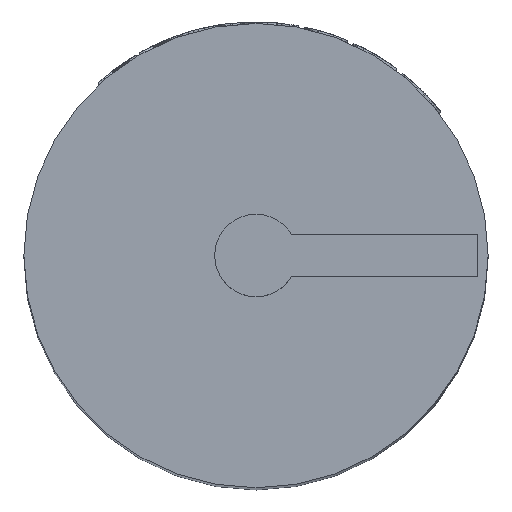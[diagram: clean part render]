
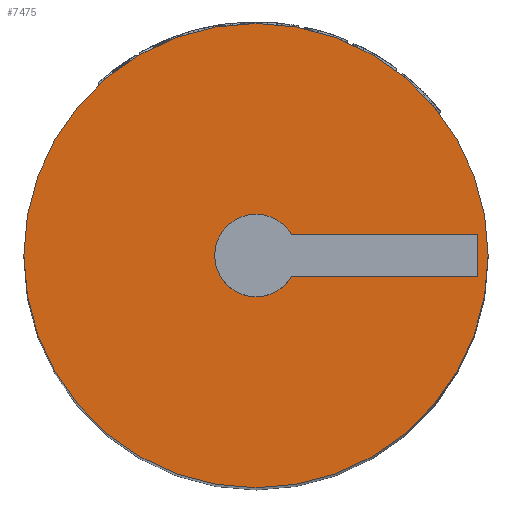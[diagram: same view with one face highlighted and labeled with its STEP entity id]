
A CAD part, top view. The second image highlights one B-rep face of the part: STEP entity #7475.
In plain terms, the highlighted planar face has unit normal (0, 0, 1).
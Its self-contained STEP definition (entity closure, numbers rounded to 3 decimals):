
#1835=CARTESIAN_POINT('',(0.,0.,60.5));
#1836=DIRECTION('',(0.,0.,1.));
#1837=DIRECTION('',(1.,0.,0.));
#1838=AXIS2_PLACEMENT_3D('',#1835,#1836,#1837);
#1840=CARTESIAN_POINT('',(0.,0.,60.5));
#1841=DIRECTION('',(0.,0.,1.));
#1842=DIRECTION('',(-1.,0.,0.));
#1843=AXIS2_PLACEMENT_3D('',#1840,#1841,#1842);
#1845=DIRECTION('',(1.,0.,0.));
#1846=VECTOR('',#1845,15.745);
#1847=CARTESIAN_POINT('',(4.,-2.,60.5));
#1848=LINE('',#1847,#1846);
#1849=DIRECTION('',(0.,1.,0.));
#1850=VECTOR('',#1849,4.);
#1851=CARTESIAN_POINT('',(19.745,-2.,60.5));
#1852=LINE('',#1851,#1850);
#1853=DIRECTION('',(1.,0.,0.));
#1854=VECTOR('',#1853,15.745);
#1855=CARTESIAN_POINT('',(4.,2.,60.5));
#1856=LINE('',#1855,#1854);
#1857=DIRECTION('',(0.,1.,0.));
#1858=VECTOR('',#1857,2.);
#1859=CARTESIAN_POINT('',(4.,0.,60.5));
#1860=LINE('',#1859,#1858);
#1861=CARTESIAN_POINT('',(0.,0.,60.5));
#1862=DIRECTION('',(0.,0.,1.));
#1863=DIRECTION('',(1.,0.,0.));
#1864=AXIS2_PLACEMENT_3D('',#1861,#1862,#1863);
#1866=CARTESIAN_POINT('',(0.,0.,60.5));
#1867=DIRECTION('',(0.,0.,1.));
#1868=DIRECTION('',(-1.,0.,0.));
#1869=AXIS2_PLACEMENT_3D('',#1866,#1867,#1868);
#1871=DIRECTION('',(0.,1.,0.));
#1872=VECTOR('',#1871,2.);
#1873=CARTESIAN_POINT('',(4.,-2.,60.5));
#1874=LINE('',#1873,#1872);
#5597=CARTESIAN_POINT('',(22.5,0.,60.5));
#5598=CARTESIAN_POINT('',(-22.5,0.,60.5));
#5599=VERTEX_POINT('',#5597);
#5600=VERTEX_POINT('',#5598);
#5601=CARTESIAN_POINT('',(-4.,0.,60.5));
#5603=VERTEX_POINT('',#5601);
#5617=CARTESIAN_POINT('',(4.,-2.,60.5));
#5618=CARTESIAN_POINT('',(19.745,-2.,60.5));
#5619=VERTEX_POINT('',#5617);
#5620=VERTEX_POINT('',#5618);
#5621=CARTESIAN_POINT('',(4.,2.,60.5));
#5622=CARTESIAN_POINT('',(19.745,2.,60.5));
#5623=VERTEX_POINT('',#5621);
#5624=VERTEX_POINT('',#5622);
#5625=CARTESIAN_POINT('',(4.,0.,60.5));
#5626=VERTEX_POINT('',#5625);
#7450=CARTESIAN_POINT('',(0.,0.,60.5));
#7451=DIRECTION('',(0.,0.,1.));
#7452=DIRECTION('',(1.,0.,0.));
#7453=AXIS2_PLACEMENT_3D('',#7450,#7451,#7452);
#7454=PLANE('',#7453);
#7455=ORIENTED_EDGE('',*,*,#6620,.F.);
#7456=ORIENTED_EDGE('',*,*,#7443,.F.);
#7457=EDGE_LOOP('',(#7455,#7456));
#7458=FACE_OUTER_BOUND('',#7457,.F.);
#7460=ORIENTED_EDGE('',*,*,#7459,.T.);
#7462=ORIENTED_EDGE('',*,*,#7461,.T.);
#7464=ORIENTED_EDGE('',*,*,#7463,.F.);
#7466=ORIENTED_EDGE('',*,*,#7465,.F.);
#7468=ORIENTED_EDGE('',*,*,#7467,.T.);
#7470=ORIENTED_EDGE('',*,*,#7469,.T.);
#7472=ORIENTED_EDGE('',*,*,#7471,.F.);
#7473=EDGE_LOOP('',(#7460,#7462,#7464,#7466,#7468,#7470,#7472));
#7474=FACE_BOUND('',#7473,.F.);
#7475=ADVANCED_FACE('',(#7458,#7474),#7454,.T.);
#1839=CIRCLE('',#1838,22.5);
#1844=CIRCLE('',#1843,22.5);
#1865=CIRCLE('',#1864,4.);
#1870=CIRCLE('',#1869,4.);
#6620=EDGE_CURVE('',#5599,#5600,#1839,.T.);
#7443=EDGE_CURVE('',#5600,#5599,#1844,.T.);
#7459=EDGE_CURVE('',#5619,#5620,#1848,.T.);
#7461=EDGE_CURVE('',#5620,#5624,#1852,.T.);
#7463=EDGE_CURVE('',#5623,#5624,#1856,.T.);
#7465=EDGE_CURVE('',#5626,#5623,#1860,.T.);
#7467=EDGE_CURVE('',#5626,#5603,#1865,.T.);
#7469=EDGE_CURVE('',#5603,#5626,#1870,.T.);
#7471=EDGE_CURVE('',#5619,#5626,#1874,.T.);
